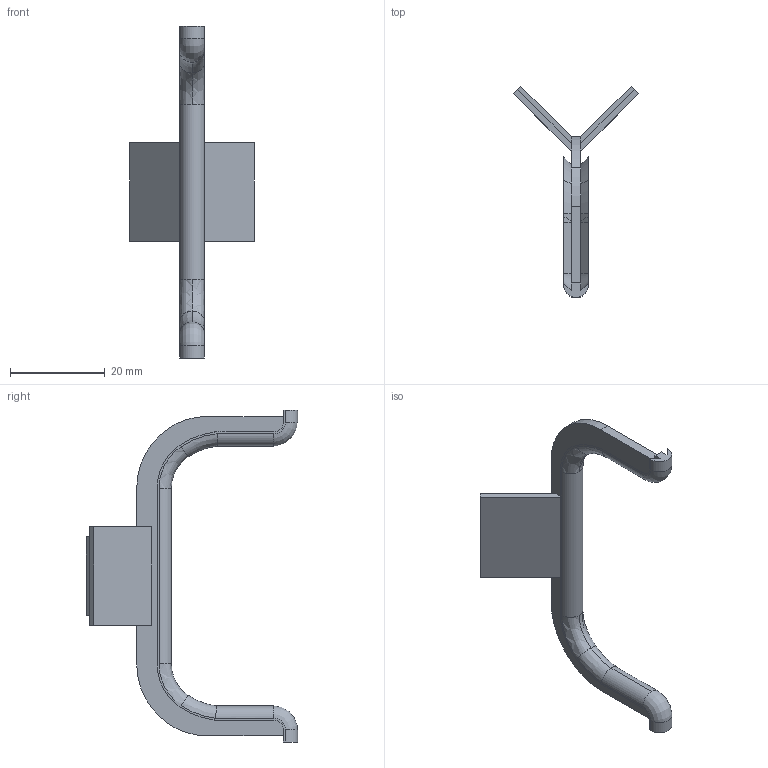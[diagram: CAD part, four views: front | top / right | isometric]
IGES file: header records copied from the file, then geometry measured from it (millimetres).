
Start section: Data from Parasolid IGES Translator 15.0.47, Copyright(c) 2006 Siemens P LM Software. All Rights Reserved.
Global section: file name: 9210138.igs; native system:  By UGS Corp.; preprocessor: XPlus GENERIC/IGES 3.0; author: Noname; organization: Noname; date: 20160315.183351; units: millimetre
Bounding box: 26.32 x 44.51 x 69.95 mm (x, y, z)
Surface area: 4428.7 mm2 (no closed solid volume)
Topology: 0 solids, 0 shells, 96 faces, 554 edges, 554 vertices
Faces by surface type: extrusion 60, revolution 36
